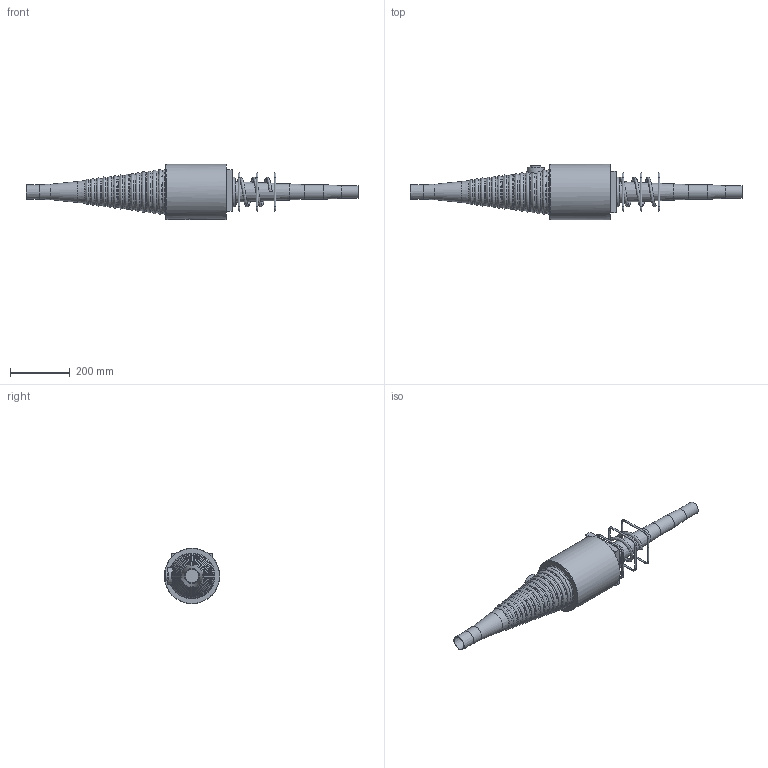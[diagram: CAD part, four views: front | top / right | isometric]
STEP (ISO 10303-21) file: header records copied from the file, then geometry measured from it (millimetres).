
FILE_DESCRIPTION(/* description */ (''),/* implementation_level */ '2;1');
FILE_NAME(/* name */ 'Z:\04 Publications\05 Give-out\BBR\6_3D_Models\BBR VT CONA CMI\BBR VT CONA CMI SP\00206\BBR VT CONA CMI SP 206_Coupler H Assembly_CS-34,28.stp',/* time_stamp */ '2017-05-05T13:20:58+02:00',/* author */ ('IP'),/* organization */ (''),/* preprocessor_version */ 'ST-DEVELOPER v16.1',/* originating_system */ 'Autodesk Inventor 2016',/* authorisation */ '');
FILE_SCHEMA (('AUTOMOTIVE_DESIGN { 1 0 10303 214 3 1 1 }'));
Length unit declared in the file: millimetre
Products named in the file (1): BBR VT CONA CMI SP 206_Coupler H Assembly_CS-34,28
Bounding box: 1111.33 x 185 x 185.1 mm (x, y, z)
Volume: 7254417 mm3; surface area: 619503.5 mm2
Topology: 6 solids, 6 shells, 917 faces, 2346 edges, 1497 vertices
Faces by surface type: bspline 421, plane 258, torus 109, cylinder 80, cone 37, sphere 12
Full cylindrical faces by diameter (mm): 6 x12, 34.158 x1, 42 x1, 49 x1, 50 x1, 57 x1, 185 x1
Entity records: 38869 total; most frequent: CARTESIAN_POINT 19490, ORIENTED_EDGE 4398, DIRECTION 2813, EDGE_CURVE 2198, VERTEX_POINT 1490, EDGE_LOOP 1123, AXIS2_PLACEMENT_3D 960, FACE_OUTER_BOUND 917
